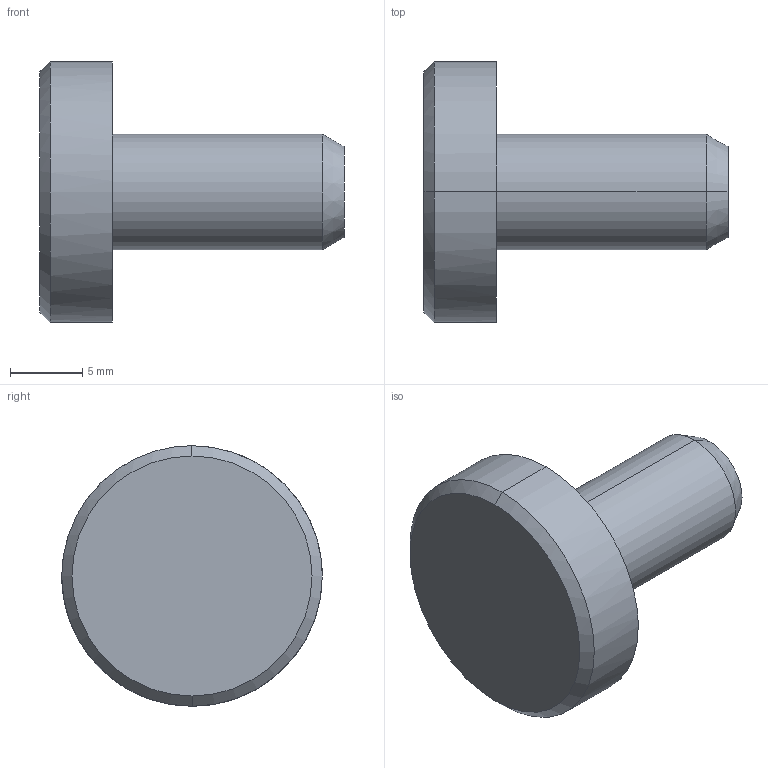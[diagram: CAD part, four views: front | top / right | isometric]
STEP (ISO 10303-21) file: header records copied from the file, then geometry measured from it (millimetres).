
FILE_DESCRIPTION(('CATIA V5 STEP Exchange'),'2;1');
FILE_NAME('C:\Users\Utente\Desktop\IO LAVORO\3D X SITO CF\X SITO\PLASTICA\382F\382F-18.stp','2021-03-10T19:06:05+00:00',('none'),('none'),'CATIA Version 5 Release 20 GA (IN-10)','CATIA V5 STEP AP203','none');
FILE_SCHEMA(('CONFIG_CONTROL_DESIGN'));
Length unit declared in the file: millimetre
Products named in the file (1): 382F-18
Bounding box: 21 x 18 x 18 mm (x, y, z)
Volume: 2047.7 mm3; surface area: 1151.4 mm2
Topology: 1 solids, 1 shells, 11 faces, 32 edges, 24 vertices
Faces by surface type: cone 4, cylinder 4, plane 3
Entity records: 466 total; most frequent: CARTESIAN_POINT 134, ORIENTED_EDGE 64, DIRECTION 48, EDGE_CURVE 32, AXIS2_PLACEMENT_3D 30, VERTEX_POINT 24, CIRCLE 18, EDGE_LOOP 12
